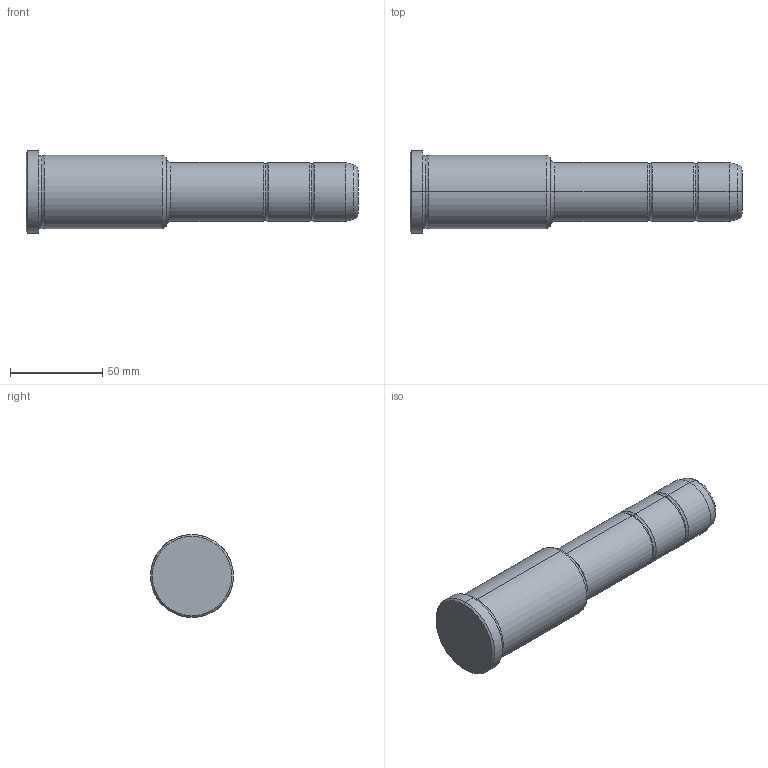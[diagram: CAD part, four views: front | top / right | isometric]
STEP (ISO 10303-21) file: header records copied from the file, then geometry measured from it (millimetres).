
FILE_DESCRIPTION(('CATIA V5 STEP Exchange'),'2;1');
FILE_NAME('C:\Users\Utente\Desktop\IO LAVORO\3D X SITO CF\X SITO\PLASTICA\351\351-32X76X180.stp','2021-09-07T13:53:34+00:00',('none'),('none'),'CATIA Version 5 Release 20 GA (IN-10)','CATIA V5 STEP AP203','none');
FILE_SCHEMA(('CONFIG_CONTROL_DESIGN'));
Length unit declared in the file: millimetre
Products named in the file (1): 351-32X76X180
Bounding box: 180 x 45 x 45 mm (x, y, z)
Volume: 180277.5 mm3; surface area: 22867.2 mm2
Topology: 1 solids, 1 shells, 36 faces, 102 edges, 70 vertices
Faces by surface type: torus 16, cylinder 10, cone 6, plane 4
Entity records: 1292 total; most frequent: CARTESIAN_POINT 321, ORIENTED_EDGE 204, DIRECTION 166, AXIS2_PLACEMENT_3D 115, EDGE_CURVE 102, CIRCLE 78, VERTEX_POINT 70, EDGE_LOOP 38
